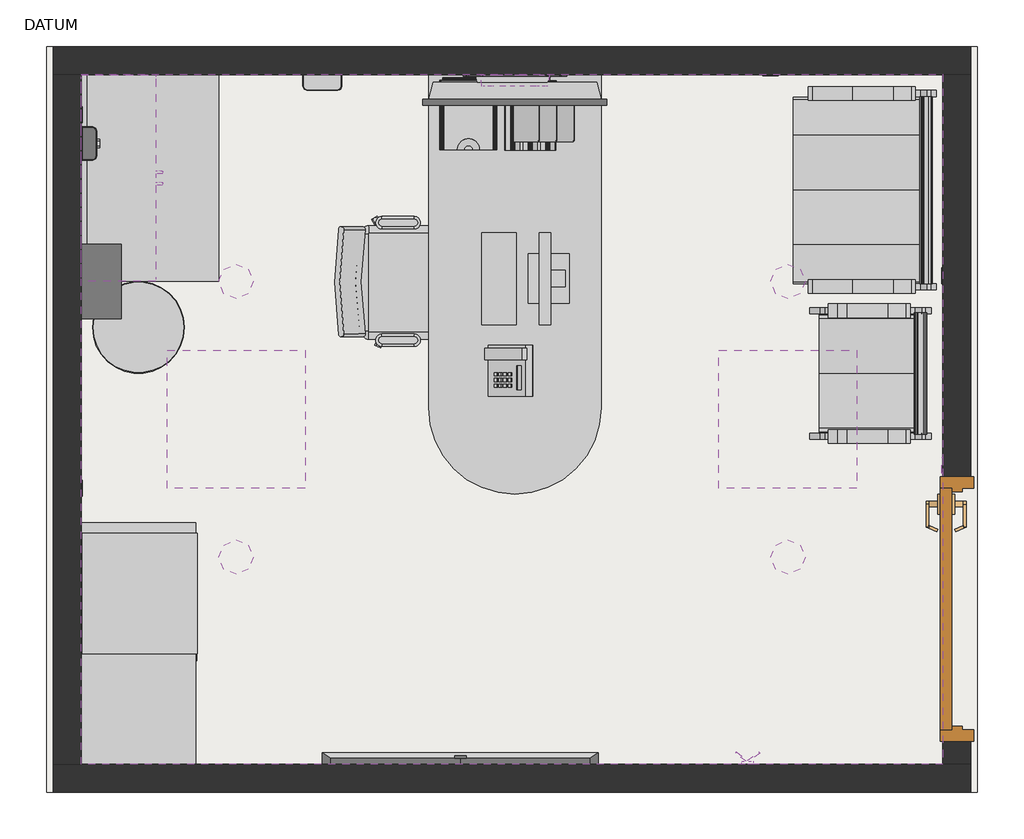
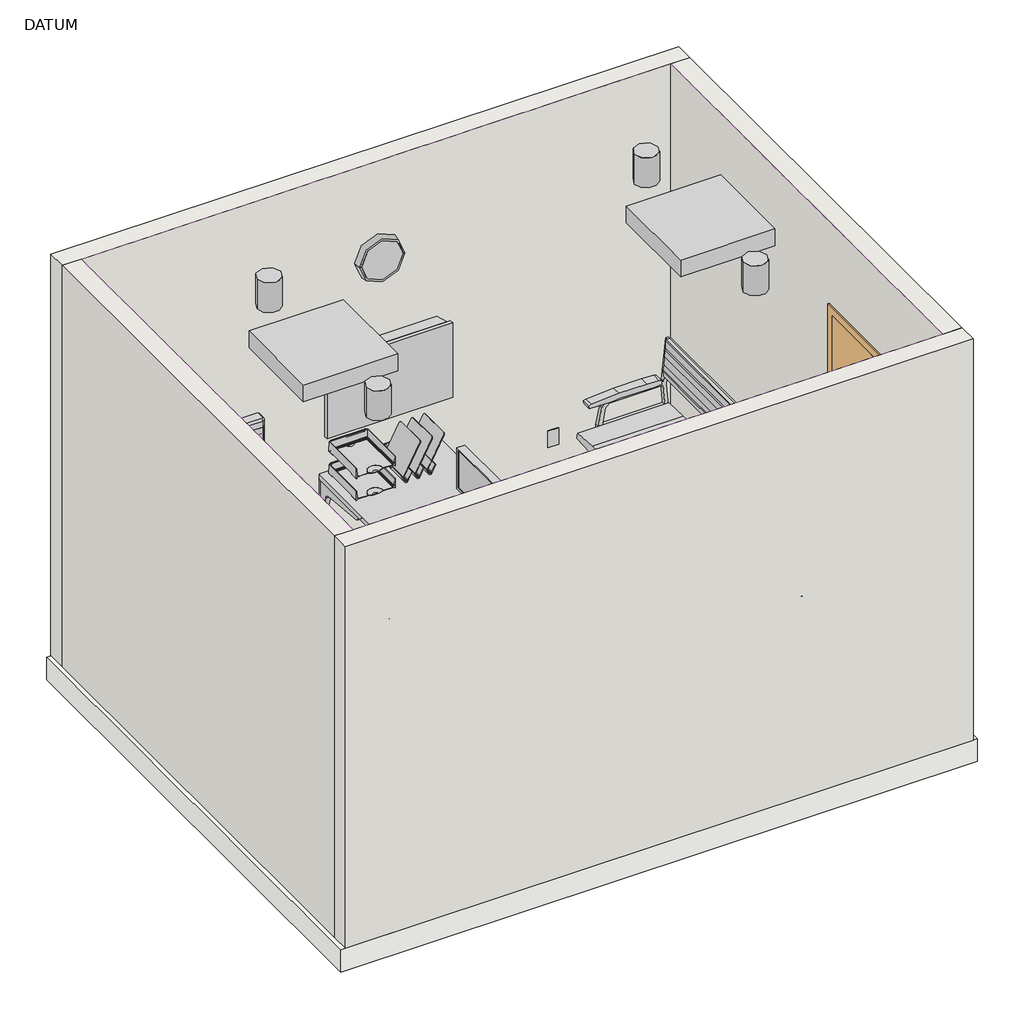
# One storey, incomplete: 29 proxies, 4 light fixtures, 4 walls, 1 covering, 1 door, 1 slab.
"""IFC4 building model written with IfcOpenShell, lengths in millimetres."""

from ifc_helpers import new_model, si_unit, point, frame, frame_2d, origin, origin_with_axes, place, context, project, spatial, polyline, circle_curve, trimmed, segment, composite_curve, outline, extrude, faceted_brep, transform, mapped, element, save
from components import specialty_equipment_1bbaf200, specialty_equipment_3f53ea4d, specialty_equipment_12d14f2c, specialty_equipment_a152fc04, specialty_equipment_49429395, specialty_equipment_e1c1e863, specialty_equipment_6e2372c1, specialty_equipment_80ac4eb8, a1015_telephone_desk_multiple_line_a1015_telephone_desk_5230e7aa, a5075_dispenser_soap_a5075_dispenser_soap_771e7fba, a5080_dispenser_paper_towel_a5080_dispenser_paper_towel_1e08ff74, a5212_bracket_television_wall_mounted_tiltangle_32x_4_8d2e6d10, a5220_bracket_television_wall_backing_a5220_bracket_9e32a365, ct020_countertop_solid_surface_ct020_countertop_solid_22332cec, f0205_chair_side_with_arms_f0205_chair_side_with_arms_a74d3a73, f0300_chair_task_swivel_with_arms_f0300_chair_task_swivel_22c7d8c1, f0300_chair_task_swivel_with_arms_f0300_chair_task_swivel_548d2802, f0420_cabinet_filing_lateral_half_height_f0420_cabinet_7300756f, f3200_clock_battery_12in_dia_f3200_clock_battery_12in_dia_24be97cd, m1801_computer_with_flat_panel_monitor_m1801_computer_with_63adc1fb, m1825_printer_computer_m1825_printer_computer_25ab0afd, outlet_communications_telephone_data_08633527, proxy_9d74ca78, proxy_f1a204da, door_364cf94f, light_fixture_cae93c3e

model = new_model("IFC4")

# Units and contexts
model_context = context("Model", 3, world=origin())
ifc_project = project(units=[si_unit("LENGTHUNIT", "METRE", prefix="MILLI")], contexts=[model_context])

# Site, building, storey
site = spatial("IfcSite", under=ifc_project)
building = spatial("IfcBuilding", under=site)
storey = spatial("IfcBuildingStorey", under=building, Name="DATUM", Elevation=0.0)

# Proxies
placement = place(None, origin())
specialty_equipment_shape = specialty_equipment_1bbaf200(model_context)
element("IfcBuildingElementProxy", 1, Name="F3065 - WhiteboardBulletin Board Combination : F3065 - Whiteboard/Bulletin Board, Combination", ObjectType="F3065 - WhiteboardBulletin Board Combination : F3065 - Whiteboard/Bulletin Board, Combination", at=placement, inside=storey, context=model_context, shape_type="MappedRepresentation", body=[
    mapped(specialty_equipment_shape, transform((-10685.6294297, -262897.2494007, 914.4), x_axis=(-1.0, 0.0, 0.0), y_axis=(0.0, -1.0, 0.0), z_axis=(0.0, 0.0, 1.0))),
])
specialty_equipment_2_shape = specialty_equipment_3f53ea4d(model_context)
specialty_equipment_3_shape = specialty_equipment_12d14f2c(model_context)
element("IfcBuildingElementProxy", 2, Name="E0063 - Workstation, L-Shaped wPeninsula, Wall Mtd, 72x72 (1) : E0063 - Workstation, L-Shaped wPeninsula, Wall Mtd, 72x72 (1)", ObjectType="E0063 - Workstation, L-Shaped wPeninsula, Wall Mtd, 72x72 (1) : E0063 - Workstation, L-Shaped wPeninsula, Wall Mtd, 72x72 (1)", at=placement, inside=storey, context=model_context, shape_type="MappedRepresentation", body=[
    mapped(specialty_equipment_2_shape, transform((-10520.5294297, -260801.7494007, 0.0), x_axis=(0.0, 1.0, 0.0), y_axis=(-1.0, 0.0, 0.0), z_axis=(0.0, 0.0, 1.0))),
    mapped(specialty_equipment_3_shape, transform((-10520.5294297, -260801.7494007, 0.0), x_axis=(0.0, 1.0, 0.0), y_axis=(-1.0, 0.0, 0.0), z_axis=(0.0, 0.0, 1.0))),
])
specialty_equipment_4_shape = specialty_equipment_a152fc04(model_context)
element("IfcBuildingElementProxy", 3, Name="CD040 - Cabinet, W-H, 2 Shelf, 2 DO, Sloping Top, 38x36x13 : CD040 - Cabinet, W-H, 2 Shelf, 2 DO, Sloping Top, 38x36x13", ObjectType="CD040 - Cabinet, W-H, 2 Shelf, 2 DO, Sloping Top, 38x36x13 : CD040 - Cabinet, W-H, 2 Shelf, 2 DO, Sloping Top, 38x36x13", at=placement, inside=storey, context=model_context, shape_type="MappedRepresentation", body=[
    mapped(specialty_equipment_4_shape, transform((-13033.5419297, -260387.0205635, 0.0), x_axis=(0.0, 1.0, 0.0), y_axis=(-1.0, 0.0, 0.0), z_axis=(0.0, 0.0, 1.0))),
])
specialty_equipment_5_shape = specialty_equipment_49429395(model_context)
element("IfcBuildingElementProxy", 4, Name="F2000 - Basket, Wastepaper : F2000 - Basket, Wastepaper", ObjectType="F2000 - Basket, Wastepaper : F2000 - Basket, Wastepaper", at=placement, inside=storey, context=model_context, shape_type="MappedRepresentation", body=[
    mapped(specialty_equipment_5_shape, transform((-12717.6294297, -261017.6494007, 0.0), x_axis=(1.0, 0.0, 0.0), y_axis=(0.0, 1.0, 0.0), z_axis=(0.0, 0.0, 1.0))),
])
specialty_equipment_6_shape = specialty_equipment_e1c1e863(model_context)
element("IfcBuildingElementProxy", 5, Name="A5145 - Hook, Garment, Double : A5145 - Hook, Garment, Double", ObjectType="A5145 - Hook, Garment, Double : A5145 - Hook, Garment, Double", at=placement, inside=storey, context=model_context, shape_type="MappedRepresentation", body=[
    mapped(specialty_equipment_6_shape, transform((-10025.2294297, -262948.0494007, 1219.2), x_axis=(-1.0000000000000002, 0.0, 0.0), y_axis=(0.0, -1.0000000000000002, 0.0), z_axis=(0.0, 0.0, 1.0))),
])
specialty_equipment_7_shape = specialty_equipment_6e2372c1(model_context)
element("IfcBuildingElementProxy", 6, Name="A5077 Dispenser_Hand Sanitzer, Hands free : A5077 Dispenser_Hand Sanitzer, Hands free", ObjectType="A5077 Dispenser_Hand Sanitzer, Hands free : A5077 Dispenser_Hand Sanitzer, Hands free", at=placement, inside=storey, context=model_context, shape_type="MappedRepresentation", body=[
    mapped(specialty_equipment_7_shape, transform((-11904.8294297, -259900.0494007, 938.2652748), x_axis=(1.0000000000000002, 0.0, 0.0), y_axis=(0.0, 1.0000000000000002, 0.0), z_axis=(0.0, 0.0, 1.0))),
])
specialty_equipment_8_shape = specialty_equipment_80ac4eb8(model_context)
element("IfcBuildingElementProxy", 7, Name="F0206 - Chair, Side, Bariatric, With Arms : F0206 - Chair, Side, Bariatric, With Arms", ObjectType="F0206 - Chair, Side, Bariatric, With Arms : F0206 - Chair, Side, Bariatric, With Arms", at=placement, inside=storey, context=model_context, shape_type="MappedRepresentation", body=[
    mapped(specialty_equipment_8_shape, transform((-9535.1996577, -260410.3260246, 0.0), x_axis=(-1.0000000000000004, 0.0, 0.0), y_axis=(0.0, -1.0000000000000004, 0.0), z_axis=(0.0, 0.0, 1.0))),
])
a1015_telephone_desk_multiple_line_a1015_telephone_desk_shape = a1015_telephone_desk_multiple_line_a1015_telephone_desk_5230e7aa(model_context)
element("IfcBuildingElementProxy", 8, Name="A1015 - Telephone, Desk, Multiple Line : A1015 Telephone_Desk Multi-Line", ObjectType="A1015 - Telephone, Desk, Multiple Line : A1015 Telephone_Desk Multi-Line", at=placement, inside=storey, context=model_context, shape_type="MappedRepresentation", body=[
    mapped(a1015_telephone_desk_multiple_line_a1015_telephone_desk_shape, transform((-10860.9585042, -260962.3555546, 736.6), x_axis=(0.0, 1.0, 0.0), y_axis=(-1.0, 0.0, 0.0), z_axis=(0.0, 0.0, 1.0))),
])
a5075_dispenser_soap_a5075_dispenser_soap_shape = a5075_dispenser_soap_a5075_dispenser_soap_771e7fba(model_context)
element("IfcBuildingElementProxy", 9, Name="A5075 - Dispenser, Soap : A5075 - Dispenser, Soap", ObjectType="A5075 - Dispenser, Soap : A5075 - Dispenser, Soap", at=placement, inside=storey, context=model_context, shape_type="MappedRepresentation", body=[
    mapped(a5075_dispenser_soap_a5075_dispenser_soap_shape, transform((-12971.6294297, -260204.8494007, 1066.8), x_axis=(0.0, -1.0, 0.0), y_axis=(1.0, 0.0, 0.0), z_axis=(0.0, 0.0, 1.0))),
])
a5080_dispenser_paper_towel_a5080_dispenser_paper_towel_shape = a5080_dispenser_paper_towel_a5080_dispenser_paper_towel_1e08ff74(model_context)
element("IfcBuildingElementProxy", 10, Name="A5080 - Dispenser, Paper Towel : A5080 - Dispenser, Paper Towel", ObjectType="A5080 - Dispenser, Paper Towel : A5080 - Dispenser, Paper Towel", at=placement, inside=storey, context=model_context, shape_type="MappedRepresentation", body=[
    mapped(a5080_dispenser_paper_towel_a5080_dispenser_paper_towel_shape, transform((-12971.6294297, -260814.4494007, 1066.8), x_axis=(0.0, -1.0, 0.0), y_axis=(1.0, 0.0, 0.0), z_axis=(0.0, 0.0, 1.0))),
])
a5212_bracket_television_wall_mounted_tiltangle_32x_4_shape = a5212_bracket_television_wall_mounted_tiltangle_32x_4_8d2e6d10(model_context)
element("IfcBuildingElementProxy", 11, Name="A5212 - Bracket, Television, Wall-Mounted, TiltAngle 32x 4 : A5212 - Bracket, Television, Wall-Mounted, Tilt/Angle 32\"x 4\"", ObjectType="A5212 - Bracket, Television, Wall-Mounted, TiltAngle 32x 4 : A5212 - Bracket, Television, Wall-Mounted, Tilt/Angle 32\"x 4\"", at=placement, inside=storey, context=model_context, shape_type="MappedRepresentation", body=[
    mapped(a5212_bracket_television_wall_mounted_tiltangle_32x_4_shape, transform((-10647.5294297, -259934.6971488, 1066.8), x_axis=(-1.0, 0.0, 0.0), y_axis=(0.0, -1.0, 0.0), z_axis=(0.0, 0.0, 1.0))),
])
a5220_bracket_television_wall_backing_a5220_bracket_shape = a5220_bracket_television_wall_backing_a5220_bracket_9e32a365(model_context)
element("IfcBuildingElementProxy", 12, Name="A5220 - Bracket, Television, Wall Backing : A5220 - Bracket, Television, Wall Backing", ObjectType="A5220 - Bracket, Television, Wall Backing : A5220 - Bracket, Television, Wall Backing", at=placement, inside=storey, context=model_context, shape_type="MappedRepresentation", body=[
    mapped(a5220_bracket_television_wall_backing_a5220_bracket_shape, transform((-11053.9294297, -259912.7494007, 1155.7), x_axis=(1.0, 0.0, 0.0), y_axis=(0.0, 1.0, 0.0), z_axis=(0.0, 0.0, 1.0))),
])
ct020_countertop_solid_surface_ct020_countertop_solid_shape = ct020_countertop_solid_surface_ct020_countertop_solid_22332cec(model_context)
element("IfcBuildingElementProxy", 13, Name="CT020 - Countertop, Solid Surface : CT020 - Countertop, Solid Surface", ObjectType="CT020 - Countertop, Solid Surface : CT020 - Countertop, Solid Surface", at=placement, inside=storey, context=model_context, shape_type="MappedRepresentation", body=[
    mapped(ct020_countertop_solid_surface_ct020_countertop_solid_shape, transform((-12666.8294297, -260357.2494007, 914.4), x_axis=(0.0, -1.0, 0.0), y_axis=(1.0, 0.0, 0.0), z_axis=(0.0, 0.0, 1.0))),
])
f0205_chair_side_with_arms_f0205_chair_side_with_arms_shape = f0205_chair_side_with_arms_f0205_chair_side_with_arms_a74d3a73(model_context)
element("IfcBuildingElementProxy", 14, Name="F0205 - Chair, Side With Arms : F0205 - Chair, Side With Arms", ObjectType="F0205 - Chair, Side With Arms : F0205 - Chair, Side With Arms", at=placement, inside=storey, context=model_context, shape_type="MappedRepresentation", body=[
    mapped(f0205_chair_side_with_arms_f0205_chair_side_with_arms_shape, transform((-9535.1996577, -261221.2071029, 0.0), x_axis=(-1.0000000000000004, 0.0, 0.0), y_axis=(0.0, -1.0000000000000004, 0.0), z_axis=(0.0, 0.0, 1.0))),
])
f0300_chair_task_swivel_with_arms_f0300_chair_task_swivel_shape = f0300_chair_task_swivel_with_arms_f0300_chair_task_swivel_22c7d8c1(model_context)
f0300_chair_task_swivel_with_arms_f0300_chair_task_swivel_2_shape = f0300_chair_task_swivel_with_arms_f0300_chair_task_swivel_548d2802(model_context)
element("IfcBuildingElementProxy", 15, Name="F0300 - Chair, Task, Swivel, With Arms : F0300 - Chair, Task, Swivel, With Arms", ObjectType="F0300 - Chair, Task, Swivel, With Arms : F0300 - Chair, Task, Swivel, With Arms", at=placement, inside=storey, context=model_context, shape_type="MappedRepresentation", body=[
    mapped(f0300_chair_task_swivel_with_arms_f0300_chair_task_swivel_shape, transform((-11526.107096, -260814.4494007, 0.0), x_axis=(0.0, -1.0000000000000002, 0.0), y_axis=(1.0000000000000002, 0.0, 0.0), z_axis=(0.0, 0.0, 1.0))),
    mapped(f0300_chair_task_swivel_with_arms_f0300_chair_task_swivel_2_shape, transform((-11526.107096, -260814.4494007, 0.0), x_axis=(0.0, -1.0000000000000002, 0.0), y_axis=(1.0000000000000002, 0.0, 0.0), z_axis=(0.0, 0.0, 1.0))),
])
f0420_cabinet_filing_lateral_half_height_f0420_cabinet_shape = f0420_cabinet_filing_lateral_half_height_f0420_cabinet_7300756f(model_context)
element("IfcBuildingElementProxy", 16, Name="F0420 - Cabinet, Filing, Lateral, Half Height : F0420 - Cabinet, Filing, Lateral, Half Height", ObjectType="F0420 - Cabinet, Filing, Lateral, Half Height : F0420 - Cabinet, Filing, Lateral, Half Height", at=placement, inside=storey, context=model_context, shape_type="MappedRepresentation", body=[
    mapped(f0420_cabinet_filing_lateral_half_height_f0420_cabinet_shape, transform((-12717.6294297, -262414.6494007, 0.0), x_axis=(0.0, -1.0, 0.0), y_axis=(1.0, 0.0, 0.0), z_axis=(0.0, 0.0, 1.0))),
])
f3200_clock_battery_12in_dia_f3200_clock_battery_12in_dia_shape = f3200_clock_battery_12in_dia_f3200_clock_battery_12in_dia_24be97cd(model_context)
element("IfcBuildingElementProxy", 17, Name="F3200 - Clock, Battery, 12in Dia : F3200 - Clock, Battery, 12in Dia", ObjectType="F3200 - Clock, Battery, 12in Dia : F3200 - Clock, Battery, 12in Dia", at=placement, inside=storey, context=model_context, shape_type="MappedRepresentation", body=[
    mapped(f3200_clock_battery_12in_dia_f3200_clock_battery_12in_dia_shape, transform((-11003.3364084, -259900.0494007, 1981.2), x_axis=(1.0, 0.0, 0.0), y_axis=(0.0, 1.0, 0.0), z_axis=(0.0, 0.0, 1.0))),
])
m1801_computer_with_flat_panel_monitor_m1801_computer_with_shape = m1801_computer_with_flat_panel_monitor_m1801_computer_with_63adc1fb(model_context)
element("IfcBuildingElementProxy", 18, Name="M1801 - Computer with Flat Panel Monitor : M1801 - Computer with Flat Panel Monitor", ObjectType="M1801 - Computer with Flat Panel Monitor : M1801 - Computer with Flat Panel Monitor", at=placement, inside=storey, context=model_context, shape_type="MappedRepresentation", body=[
    mapped(m1801_computer_with_flat_panel_monitor_m1801_computer_with_shape, transform((-11028.5294297, -260801.7494007, 736.6), x_axis=(0.0, -1.0, 0.0), y_axis=(1.0, 0.0, 0.0), z_axis=(0.0, 0.0, 1.0))),
])
m1825_printer_computer_m1825_printer_computer_shape = m1825_printer_computer_m1825_printer_computer_25ab0afd(model_context)
element("IfcBuildingElementProxy", 19, Name="M1825 - Printer, Computer : M1825 - Printer, Computer", ObjectType="M1825 - Printer, Computer : M1825 - Printer, Computer", at=placement, inside=storey, context=model_context, shape_type="MappedRepresentation", body=[
    mapped(m1825_printer_computer_m1825_printer_computer_shape, transform((-12712.8669297, -262193.9869007, 736.6), x_axis=(-1.0, 0.0, 0.0), y_axis=(0.0, -1.0, 0.0), z_axis=(0.0, 0.0, 1.0))),
])
outlet_communications_telephone_data_shape = outlet_communications_telephone_data_08633527(model_context)
element("IfcBuildingElementProxy", 20, Name="Outlet, Communications : Telephone/Data", ObjectType="Outlet, Communications : Telephone/Data", at=placement, inside=storey, context=model_context, shape_type="MappedRepresentation", body=[
    mapped(outlet_communications_telephone_data_shape, transform((-11053.9294297, -259838.1369007, 400.05), x_axis=(-1.0, 0.0, 0.0), y_axis=(0.0, -1.0, 0.0), z_axis=(0.0, 0.0, 1.0))),
])
element("IfcBuildingElementProxy", 21, Name="Outlet, Duplex, Wall : Duplex", ObjectType="Outlet, Duplex, Wall : Duplex", at=placement, inside=storey, context=model_context, shape_type="MappedRepresentation", body=[
    mapped(outlet_communications_telephone_data_shape, transform((-9923.6294297, -259838.1369007, 400.05), x_axis=(-1.0, 0.0, 0.0), y_axis=(0.0, -1.0, 0.0), z_axis=(0.0, 0.0, 1.0))),
])
element("IfcBuildingElementProxy", 22, Name="Outlet, Duplex, Wall : Duplex", ObjectType="Outlet, Duplex, Wall : Duplex", at=placement, inside=storey, context=model_context, shape_type="MappedRepresentation", body=[
    mapped(outlet_communications_telephone_data_shape, transform((-11174.5794297, -259838.1369007, 400.05), x_axis=(-1.0, 0.0, 0.0), y_axis=(0.0, -1.0, 0.0), z_axis=(0.0, 0.0, 1.0))),
])
element("IfcBuildingElementProxy", 23, Name="Outlet, Duplex, Wall : Duplex", ObjectType="Outlet, Duplex, Wall : Duplex", at=placement, inside=storey, context=model_context, shape_type="MappedRepresentation", body=[
    mapped(outlet_communications_telephone_data_shape, transform((-9099.7169297, -260789.0494007, 400.05), x_axis=(0.0, 1.0, 0.0), y_axis=(-1.0, 0.0, 0.0), z_axis=(0.0, 0.0, 1.0))),
])
element("IfcBuildingElementProxy", 24, Name="Outlet, Duplex, Wall : Duplex", ObjectType="Outlet, Duplex, Wall : Duplex", at=placement, inside=storey, context=model_context, shape_type="MappedRepresentation", body=[
    mapped(outlet_communications_telephone_data_shape, transform((-11015.8294297, -263009.9619007, 400.05), x_axis=(1.0, 0.0, 0.0), y_axis=(0.0, 1.0, 0.0), z_axis=(0.0, 0.0, 1.0))),
])
element("IfcBuildingElementProxy", 25, Name="Outlet, Duplex, Wall : Duplex", ObjectType="Outlet, Duplex, Wall : Duplex", at=placement, inside=storey, context=model_context, shape_type="MappedRepresentation", body=[
    mapped(outlet_communications_telephone_data_shape, transform((-13033.5419297, -261728.8494007, 400.05), x_axis=(0.0, -1.0, 0.0), y_axis=(1.0, 0.0, 0.0), z_axis=(0.0, 0.0, 1.0))),
])
element("IfcBuildingElementProxy", 26, Name="Outlet, Duplex, Wall : Duplex", ObjectType="Outlet, Duplex, Wall : Duplex", at=placement, inside=storey, context=model_context, shape_type="MappedRepresentation", body=[
    mapped(outlet_communications_telephone_data_shape, transform((-13033.5419297, -260077.8494007, 1060.45), x_axis=(0.0, -1.0, 0.0), y_axis=(1.0, 0.0, 0.0), z_axis=(0.0, 0.0, 1.0))),
])
proxy_shape = proxy_9d74ca78(model_context)
element("IfcBuildingElementProxy", 27, Name="Return Register : 24\" x 24\"", ObjectType="Return Register : 24\" x 24\"", at=placement, inside=storey, context=model_context, shape_type="MappedRepresentation", body=[
    mapped(proxy_shape, transform((-9847.4294297, -261424.0494007, 304.8), x_axis=(1.0, 0.0, 0.0), y_axis=(0.0, 1.0, 0.0), z_axis=(0.0, 0.0, 1.0))),
])
proxy_2_shape = proxy_f1a204da(model_context)
element("IfcBuildingElementProxy", 28, Name="Supply Diffuser : 24\" x 24\"", ObjectType="Supply Diffuser : 24\" x 24\"", at=placement, inside=storey, context=model_context, shape_type="MappedRepresentation", body=[
    mapped(proxy_2_shape, transform((-12285.8294297, -261424.0494007, 304.8), x_axis=(1.0, 0.0, 0.0), y_axis=(0.0, 1.0, 0.0), z_axis=(0.0, 0.0, 1.0))),
])
element("IfcBuildingElementProxy", 29, Name="Switch, Single : Single", ObjectType="Switch, Single : Single", at=placement, inside=storey, context=model_context, shape_type="MappedRepresentation", body=[
    mapped(outlet_communications_telephone_data_shape, transform((-9099.7169297, -261627.2494007, 1219.2), x_axis=(0.0, 1.0, 0.0), y_axis=(-1.0, 0.0, 0.0), z_axis=(0.0, 0.0, 1.0))),
])

# Covering
element("IfcCovering", 30, ObjectType="2' x 2' ACT System", at=placement, inside=storey, context=model_context, shape_type="SweptSolid", body=[
    extrude(outline(polyline([(-9161.6294297, -262948.0494007), (-12971.6294297, -262948.0494007), (-12971.6294297, -259900.0494007), (-9161.6294297, -259900.0494007), (-9161.6294297, -262948.0494007)]), holes=[polyline([(-12590.6294297, -261728.8494007), (-11981.0294297, -261728.8494007), (-11981.0294297, -261119.2494007), (-12590.6294297, -261119.2494007), (-12590.6294297, -261728.8494007)]), composite_curve([segment(trimmed(circle_curve(frame_2d((-12285.8294297, -260814.4494007)), 76.2), [point((-12362.0294297, -260814.4494007))], [point((-12209.6294297, -260814.4494007))], True, "CARTESIAN"), True, "CONTINUOUS"), segment(trimmed(circle_curve(frame_2d((-12285.8294297, -260814.4494007)), 76.2), [point((-12209.6294297, -260814.4494007))], [point((-12362.0294297, -260814.4494007))], True, "CARTESIAN"), True, "CONTINUOUS")], self_intersect=False), composite_curve([segment(trimmed(circle_curve(frame_2d((-9847.4294297, -260814.4494007)), 76.2), [point((-9923.6294297, -260814.4494007))], [point((-9771.2294297, -260814.4494007))], True, "CARTESIAN"), True, "CONTINUOUS"), segment(trimmed(circle_curve(frame_2d((-9847.4294297, -260814.4494007)), 76.2), [point((-9771.2294297, -260814.4494007))], [point((-9923.6294297, -260814.4494007))], True, "CARTESIAN"), True, "CONTINUOUS")], self_intersect=False), composite_curve([segment(trimmed(circle_curve(frame_2d((-9847.4294297, -262033.6494007)), 76.2), [point((-9923.6294297, -262033.6494007))], [point((-9771.2294297, -262033.6494007))], True, "CARTESIAN"), True, "CONTINUOUS"), segment(trimmed(circle_curve(frame_2d((-9847.4294297, -262033.6494007)), 76.2), [point((-9771.2294297, -262033.6494007))], [point((-9923.6294297, -262033.6494007))], True, "CARTESIAN"), True, "CONTINUOUS")], self_intersect=False), composite_curve([segment(trimmed(circle_curve(frame_2d((-12285.8294297, -262033.6494007)), 76.2), [point((-12362.0294297, -262033.6494007))], [point((-12209.6294297, -262033.6494007))], True, "CARTESIAN"), True, "CONTINUOUS"), segment(trimmed(circle_curve(frame_2d((-12285.8294297, -262033.6494007)), 76.2), [point((-12209.6294297, -262033.6494007))], [point((-12362.0294297, -262033.6494007))], True, "CARTESIAN"), True, "CONTINUOUS")], self_intersect=False), polyline([(-10152.2294297, -261728.8494007), (-9542.6294297, -261728.8494007), (-9542.6294297, -261119.2494007), (-10152.2294297, -261119.2494007), (-10152.2294297, -261728.8494007)])]), frame((0.0, 0.0, 2743.2), z_axis=(0.0, 0.0, 1.0), x_axis=(1.0, 0.0, 0.0)), (0.0, 0.0, 1.0), 57.15),
])

# Door
door_shape = door_364cf94f(model_context)
element("IfcDoor", 31, ObjectType="Single - Flush : 42\" x 84\"", at=placement, inside=storey, context=model_context, shape_type="MappedRepresentation", body=[
    mapped(door_shape, transform((-9099.7169297, -262846.4494007, 0.0), x_axis=(0.0, 1.0, 0.0), y_axis=(-1.0, 0.0, 0.0), z_axis=(0.0, 0.0, 1.0))),
])

# Light fixtures
light_fixture_shape = light_fixture_cae93c3e(model_context)
element("IfcLightFixture", 32, ObjectType="Downlight - Recessed Can : 6\"", at=placement, inside=storey, context=model_context, shape_type="MappedRepresentation", body=[
    mapped(light_fixture_shape, transform((-12326.1034054, -260765.8082612, 307.1083968), x_axis=(1.0, 0.0, 0.0), y_axis=(0.0, 1.0, 0.0), z_axis=(0.0, 0.0, 1.0))),
])
element("IfcLightFixture", 33, ObjectType="Downlight - Recessed Can : 6\"", at=placement, inside=storey, context=model_context, shape_type="MappedRepresentation", body=[
    mapped(light_fixture_shape, transform((-9887.7034054, -260765.8082612, 307.1083968), x_axis=(1.0, 0.0, 0.0), y_axis=(0.0, 1.0, 0.0), z_axis=(0.0, 0.0, 1.0))),
])
element("IfcLightFixture", 34, ObjectType="Downlight - Recessed Can : 6\"", at=placement, inside=storey, context=model_context, shape_type="MappedRepresentation", body=[
    mapped(light_fixture_shape, transform((-9887.7034054, -261985.0082612, 307.1083968), x_axis=(1.0, 0.0, 0.0), y_axis=(0.0, 1.0, 0.0), z_axis=(0.0, 0.0, 1.0))),
])
element("IfcLightFixture", 35, ObjectType="Downlight - Recessed Can : 6\"", at=placement, inside=storey, context=model_context, shape_type="MappedRepresentation", body=[
    mapped(light_fixture_shape, transform((-12326.1034054, -261985.0082612, 307.1083968), x_axis=(1.0, 0.0, 0.0), y_axis=(0.0, 1.0, 0.0), z_axis=(0.0, 0.0, 1.0))),
])

# Slab
element("IfcSlab", 36, ObjectType="Generic - 6\"", at=placement, inside=storey, context=model_context, shape_type="SweptSolid", body=[
    extrude(outline(polyline([(-9009.2294297, -259776.2244007), (-9009.2294297, -263071.8744007), (-13124.0294297, -263071.8744007), (-13124.0294297, -259776.2244007), (-9009.2294297, -259776.2244007)])), frame((0.0, 0.0, -152.4), z_axis=(0.0, 0.0, 1.0), x_axis=(1.0, 0.0, 0.0)), (0.0, 0.0, 1.0), 152.4),
])

# Walls
element("IfcWall", 37, ObjectType="Interior - 4 7/8\"", at=placement, inside=storey, context=model_context, shape_type="Brep", body=[
    faceted_brep([(-13095.4544297, -259900.0494007, 0.0), (-12971.6294297, -259900.0494007, 0.0), (-9161.6294297, -259900.0494007, 0.0), (-9037.8044297, -259900.0494007, 0.0), (-9037.8044297, -259900.0494007, 2743.2), (-9161.6294297, -259900.0494007, 2743.2), (-12971.6294297, -259900.0494007, 2743.2), (-13095.4544297, -259900.0494007, 2743.2), (-13095.4544297, -259776.2244007, 0.0), (-13095.4544297, -259776.2244007, 2743.2), (-9037.8044297, -259776.2244007, 2743.2), (-9037.8044297, -259776.2244007, 0.0)], [[[0, 1, 2, 3, 4, 5, 6, 7]], [[8, 9, 10, 11]], [[3, 2, 1, 0, 8, 11]], [[7, 6, 5, 4, 10, 9]], [[4, 3, 11, 10]], [[0, 7, 9, 8]]]),
])
element("IfcWall", 38, ObjectType="Interior - 4 7/8\"", at=placement, inside=storey, context=model_context, shape_type="Brep", body=[
    faceted_brep([(-13095.4544297, -263071.8744007, 0.0), (-9037.8044297, -263071.8744007, 0.0), (-9037.8044297, -263071.8744007, 2743.2), (-13095.4544297, -263071.8744007, 2743.2), (-13095.4544297, -262948.0494007, 0.0), (-13095.4544297, -262948.0494007, 2743.2), (-12971.6294297, -262948.0494007, 2743.2), (-9161.6294297, -262948.0494007, 2743.2), (-9037.8044297, -262948.0494007, 2743.2), (-9037.8044297, -262948.0494007, 0.0), (-9161.6294297, -262948.0494007, 0.0), (-12971.6294297, -262948.0494007, 0.0)], [[[0, 1, 2, 3]], [[4, 5, 6, 7, 8, 9, 10, 11]], [[1, 0, 4, 11, 10, 9]], [[3, 2, 8, 7, 6, 5]], [[2, 1, 9, 8]], [[0, 3, 5, 4]]]),
])
element("IfcWall", 39, ObjectType="Interior - 4 7/8\"", at=placement, inside=storey, context=model_context, shape_type="SweptSolid", body=[
    extrude(outline(polyline([(-262948.0494007, 2743.2), (-259900.0494007, 2743.2), (-259900.0494007, 0.0), (-261678.0494007, 0.0), (-261678.0494007, 2184.4), (-262846.4494007, 2184.4), (-262846.4494007, 0.0), (-262948.0494007, 0.0), (-262948.0494007, 2743.2)])), frame((-9161.6294297, 0.0, 0.0), z_axis=(1.0, 0.0, 0.0), x_axis=(0.0, 1.0, 0.0)), (0.0, 0.0, 1.0), 123.825),
])
element("IfcWall", 40, ObjectType="Interior - 4 7/8\"", at=placement, inside=storey, context=model_context, shape_type="SweptSolid", body=[
    extrude(outline(polyline([(-13095.4544297, -262948.0494007), (-13095.4544297, -259900.0494007), (-12971.6294297, -259900.0494007), (-12971.6294297, -262948.0494007), (-13095.4544297, -262948.0494007)])), origin_with_axes(), (0.0, 0.0, 1.0), 2743.2),
])

save(model, "model.ifc")
